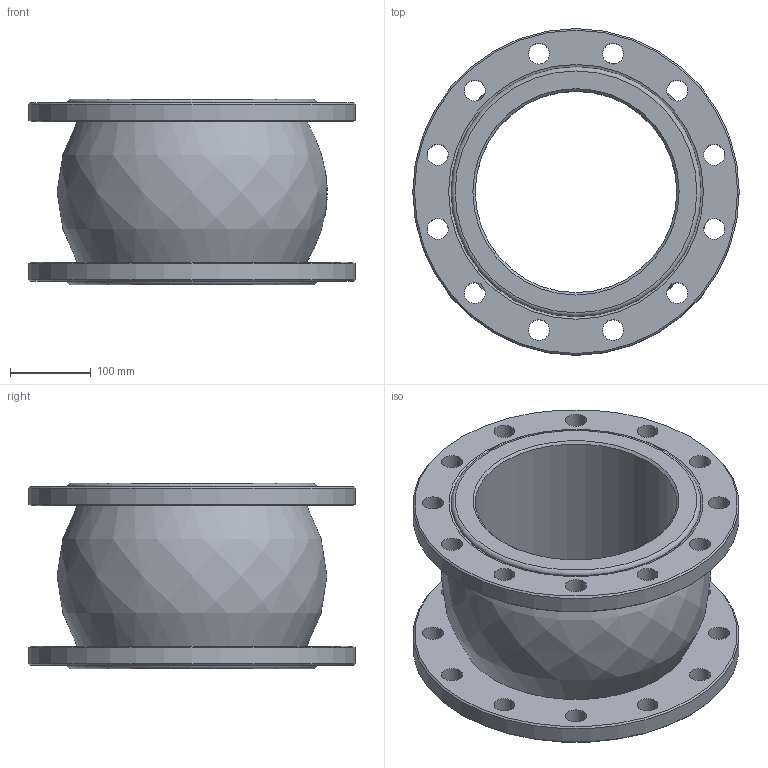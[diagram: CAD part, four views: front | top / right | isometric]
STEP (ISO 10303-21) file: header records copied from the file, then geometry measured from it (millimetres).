
FILE_DESCRIPTION(/* description */ ('D140-02386','CAx-IF Rec.Pracs.---Representation and Presentation of Product Manufacturing Information (PMI)---4.0---2014-10-13'),/* implementation_level */ '2;1');
FILE_NAME(/* name */ '',/* time_stamp */ '2026-03-10T22:59:29+03:00',/* author */ ('DN.RU'),/* organization */ ('DN.RU'),/* preprocessor_version */ 'ST-DEVELOPER v20',/* originating_system */ 'Autodesk Inventor 2025',/* authorisation */ '');
FILE_SCHEMA (('AP242_MANAGED_MODEL_BASED_3D_ENGINEERING_MIM_LF { 1 0 10303 442 1 1 4 }'));
Length unit declared in the file: millimetre
Products named in the file (1): CR-N32-F
Bounding box: 405 x 405 x 230 mm (x, y, z)
Volume: 9052315.5 mm3; surface area: 735579.7 mm2
Topology: 1 solids, 1 shells, 115 faces, 316 edges, 210 vertices
Faces by surface type: plane 43, bspline 34, cylinder 29, cone 7, torus 2
Full cylindrical faces by diameter (mm): 26 x24, 250 x1, 310 x2, 405 x2
Entity records: 5022 total; most frequent: CARTESIAN_POINT 1709, DIRECTION 650, ORIENTED_EDGE 632, EDGE_CURVE 316, AXIS2_PLACEMENT_3D 277, VERTEX_POINT 210, CIRCLE 182, EDGE_LOOP 172
